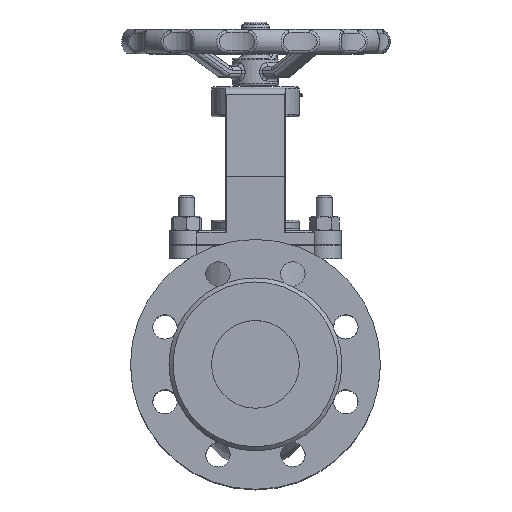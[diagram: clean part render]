
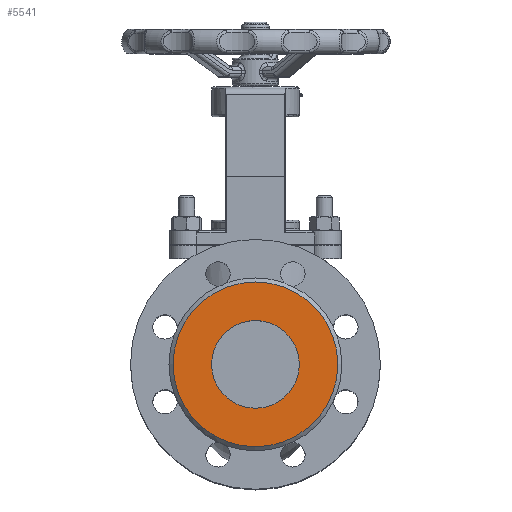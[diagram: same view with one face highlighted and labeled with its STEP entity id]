
A CAD part, top view. The second image highlights one B-rep face of the part: STEP entity #5541.
In plain terms, the highlighted planar face has unit normal (0, 0, 1).
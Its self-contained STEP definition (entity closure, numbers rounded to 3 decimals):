
#5541=ADVANCED_FACE('',(#13458,#13460),#13462,.F.);
#13458=FACE_BOUND('',#13459,.T.);
#13459=EDGE_LOOP('',(#21585));
#13460=FACE_BOUND('',#13461,.T.);
#13461=EDGE_LOOP('',(#21586));
#13462=PLANE('',#13463);
#13463=AXIS2_PLACEMENT_3D('',#13464,#13465,#13466);
#13464=CARTESIAN_POINT('',(0.,0.,145.));
#13465=DIRECTION('',(0.,0.,-1.));
#13466=DIRECTION('',(0.,1.,0.));
#21585=ORIENTED_EDGE('',*,*,#24878,.T.);
#21586=ORIENTED_EDGE('',*,*,#24952,.T.);
#24878=EDGE_CURVE('',#28486,#28486,#28487,.T.);
#24952=EDGE_CURVE('',#28593,#28593,#28594,.T.);
#28486=VERTEX_POINT('',#58734);
#28487=CIRCLE('',#58735,61.);
#28593=VERTEX_POINT('',#59901);
#28594=CIRCLE('',#59902,32.5);
#58734=CARTESIAN_POINT('',(0.,61.,145.));
#58735=AXIS2_PLACEMENT_3D('',#58736,#58737,#58738);
#58736=CARTESIAN_POINT('',(0.,0.,145.));
#58737=DIRECTION('',(0.,0.,1.));
#58738=DIRECTION('',(0.,1.,0.));
#59901=CARTESIAN_POINT('',(-32.5,0.,145.));
#59902=AXIS2_PLACEMENT_3D('',#59903,#59904,#59905);
#59903=CARTESIAN_POINT('',(0.,0.,145.));
#59904=DIRECTION('',(0.,0.,-1.));
#59905=DIRECTION('',(-1.,0.,0.));
